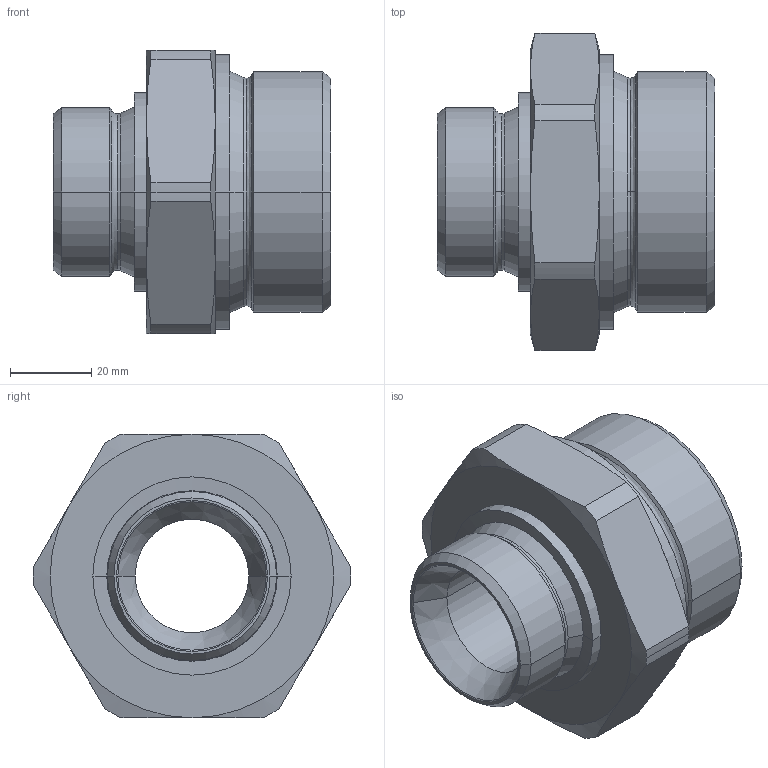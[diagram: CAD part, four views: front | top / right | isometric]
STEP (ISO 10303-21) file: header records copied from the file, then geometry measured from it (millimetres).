
FILE_DESCRIPTION((''),'2;1');
FILE_NAME('300528.stp','2006-09-11T08:14:41',(''),(''),'AutoCAD STEP 2000i','AutoCAD 2000i',', , ');
FILE_SCHEMA(('CONFIG_CONTROL_DESIGN'));
Length unit declared in the file: millimetre
Products named in the file (2): 300528.0; CHIAVE SMUSSATA#0
Assembly tree (1 placements, depth 2):
  300528.0
    CHIAVE SMUSSATA#0
Bounding box: 68.5 x 78.3 x 70 mm (x, y, z)
Volume: 96961.8 mm3; surface area: 26685.5 mm2
Topology: 1 solids, 1 shells, 76 faces, 178 edges, 106 vertices
Faces by surface type: cone 34, cylinder 20, plane 10, bspline 8, torus 4
Entity records: 2593 total; most frequent: CARTESIAN_POINT 762, DIRECTION 400, ORIENTED_EDGE 356, EDGE_CURVE 178, AXIS2_PLACEMENT_3D 176, VERTEX_POINT 106, CIRCLE 106, EDGE_LOOP 80
